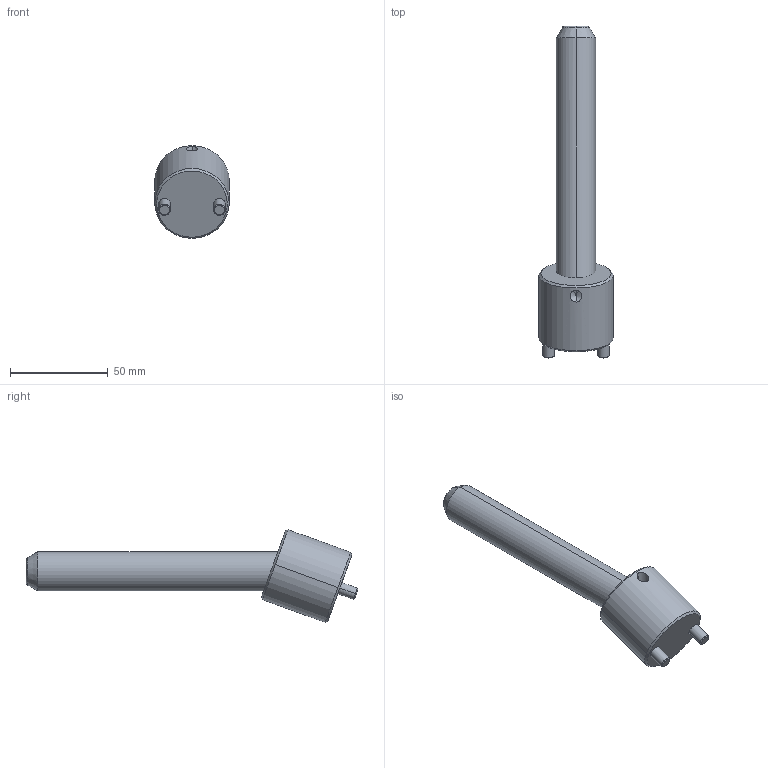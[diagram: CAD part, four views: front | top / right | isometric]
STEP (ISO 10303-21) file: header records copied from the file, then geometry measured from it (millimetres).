
FILE_DESCRIPTION(('CATIA V5 STEP Exchange'),'2;1');
FILE_NAME('C:\Users\Raffaele\Desktop\3D BOLEX\3D FILES CF BOLEX\19-INCLINED ASSEMBLY REF_CI\CI2020125.stp','2019-06-24T06:42:10+00:00',('none'),('none'),'CATIA Version 5 Release 20 GA (IN-10)','CATIA V5 STEP AP203','none');
FILE_SCHEMA(('CONFIG_CONTROL_DESIGN'));
Length unit declared in the file: millimetre
Products named in the file (1): CI2020125
Assembly tree (2 placements, depth 2):
  CI2020125
    #58
    #575
Bounding box: 38 x 169.51 x 47.34 mm (x, y, z)
Volume: 79401.5 mm3; surface area: 18983.3 mm2
Topology: 2 solids, 2 shells, 39 faces, 82 edges, 47 vertices
Faces by surface type: cone 14, cylinder 14, plane 7, torus 4
Entity records: 1518 total; most frequent: CARTESIAN_POINT 661, ORIENTED_EDGE 160, DIRECTION 144, EDGE_CURVE 80, AXIS2_PLACEMENT_3D 71, VERTEX_POINT 47, EDGE_LOOP 43, ADVANCED_FACE 39
